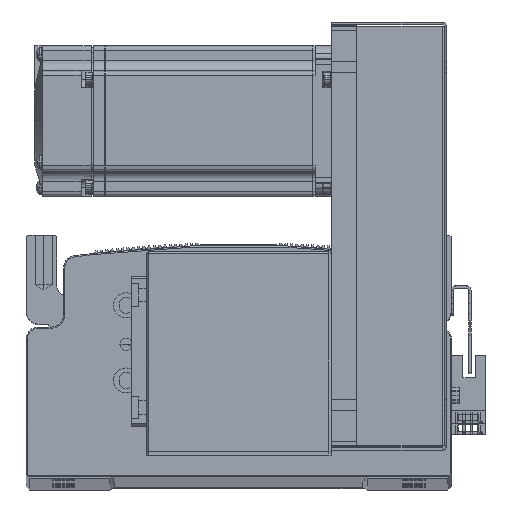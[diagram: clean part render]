
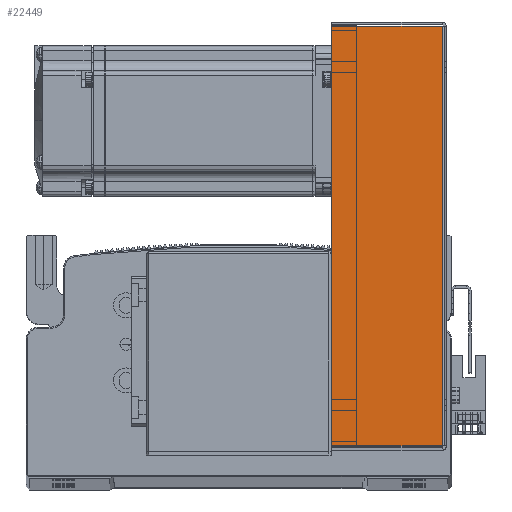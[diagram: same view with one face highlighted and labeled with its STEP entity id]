
A CAD part, top view. The second image highlights one B-rep face of the part: STEP entity #22449.
In plain terms, the highlighted planar face has unit normal (0, 0, 1).
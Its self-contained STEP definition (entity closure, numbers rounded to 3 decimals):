
#6522 = FACE_OUTER_BOUND ( 'NONE', #85119, .T. ) ;
#22449 = ADVANCED_FACE ( 'NONE', ( #6522 ), #26459, .F. ) ;
#23271 = VERTEX_POINT ( 'NONE', #87541 ) ;
#23317 = VERTEX_POINT ( 'NONE', #87586 ) ;
#23363 = VERTEX_POINT ( 'NONE', #87698 ) ;
#23407 = VERTEX_POINT ( 'NONE', #87795 ) ;
#26459 = PLANE ( 'NONE',  #66107 ) ;
#26592 = CARTESIAN_POINT ( 'NONE',  ( 0., 0., 40.5 ) ) ;
#26605 = DIRECTION ( 'NONE',  ( 0., 0., -1. ) ) ;
#26611 = DIRECTION ( 'NONE',  ( -1., 0., 0. ) ) ;
#29570 = EDGE_CURVE ( 'NONE', #23407, #23317, #60813, .T. ) ;
#29587 = EDGE_CURVE ( 'NONE', #23271, #23363, #60715, .T. ) ;
#29751 = EDGE_CURVE ( 'NONE', #23271, #23407, #60977, .T. ) ;
#29767 = EDGE_CURVE ( 'NONE', #23363, #23317, #61090, .T. ) ;
#49443 = DIRECTION ( 'NONE',  ( 0., 1., 0. ) ) ;
#49457 = DIRECTION ( 'NONE',  ( 0., 1., 0. ) ) ;
#49463 = CARTESIAN_POINT ( 'NONE',  ( 83.793, 0., 40.5 ) ) ;
#49475 = CARTESIAN_POINT ( 'NONE',  ( -83.793, 0., 40.5 ) ) ;
#49668 = CARTESIAN_POINT ( 'NONE',  ( 0., 0.737, 40.5 ) ) ;
#49689 = DIRECTION ( 'NONE',  ( -1., 0., 0. ) ) ;
#49709 = DIRECTION ( 'NONE',  ( -1., 0., 0. ) ) ;
#49734 = CARTESIAN_POINT ( 'NONE',  ( -84.5, 45., 40.5 ) ) ;
#60715 = LINE ( 'NONE', #49463, #60795 ) ;
#60795 = VECTOR ( 'NONE', #49443, 1000. ) ;
#60813 = LINE ( 'NONE', #49475, #60815 ) ;
#60815 = VECTOR ( 'NONE', #49457, 1000. ) ;
#60977 = LINE ( 'NONE', #49668, #61027 ) ;
#61027 = VECTOR ( 'NONE', #49689, 1000. ) ;
#61086 = VECTOR ( 'NONE', #49709, 1000. ) ;
#61090 = LINE ( 'NONE', #49734, #61086 ) ;
#66107 = AXIS2_PLACEMENT_3D ( 'NONE', #26592, #26605, #26611 ) ;
#85119 = EDGE_LOOP ( 'NONE', ( #85626, #85649, #85480, #85509 ) ) ;
#85480 = ORIENTED_EDGE ( 'NONE', *, *, #29767, .T. ) ;
#85509 = ORIENTED_EDGE ( 'NONE', *, *, #29570, .F. ) ;
#85626 = ORIENTED_EDGE ( 'NONE', *, *, #29751, .F. ) ;
#85649 = ORIENTED_EDGE ( 'NONE', *, *, #29587, .T. ) ;
#87541 = CARTESIAN_POINT ( 'NONE',  ( 83.793, 0.737, 40.5 ) ) ;
#87586 = CARTESIAN_POINT ( 'NONE',  ( -83.793, 45., 40.5 ) ) ;
#87698 = CARTESIAN_POINT ( 'NONE',  ( 83.793, 45., 40.5 ) ) ;
#87795 = CARTESIAN_POINT ( 'NONE',  ( -83.793, 0.737, 40.5 ) ) ;
